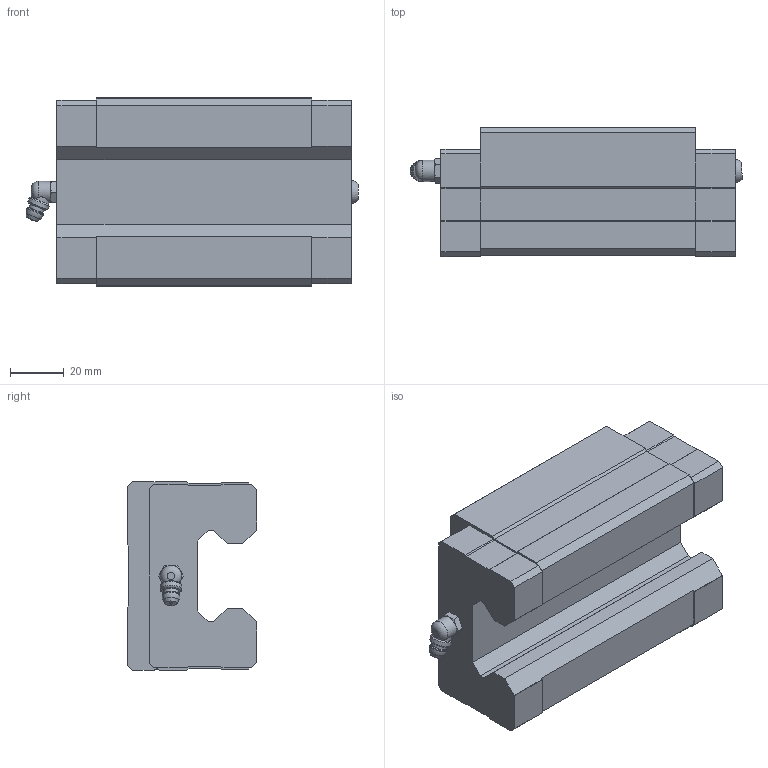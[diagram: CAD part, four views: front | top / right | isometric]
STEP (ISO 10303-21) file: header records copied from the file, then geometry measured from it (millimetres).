
FILE_DESCRIPTION(/* description */ ('STEP AP214'),/* implementation_level */ '2;1');
FILE_NAME(/* name */ 'LSH35BK-HN-N-N-M6',/* time_stamp */ '2025-03-14T18:40:33+01:00',/* author */ ('License CC BY-ND 4.0'),/* organization */ ('CADENAS'),/* preprocessor_version */ 'ST-DEVELOPER v19.3',/* originating_system */ 'PARTsolutions',/* authorisation */ ' ');
FILE_SCHEMA (('AUTOMOTIVE_DESIGN {1 0 10303 214 3 1 1}'));
Length unit declared in the file: millimetre
Products named in the file (1): LSH35BK-HN-N-N-M6
Bounding box: 122.96 x 48 x 70 mm (x, y, z)
Volume: 271462.1 mm3; surface area: 36654.4 mm2
Topology: 1 solids, 1 shells, 125 faces, 330 edges, 215 vertices
Faces by surface type: plane 100, cylinder 11, cone 8, torus 5, sphere 1
Full cylindrical faces by diameter (mm): 5.5 x1, 6.6 x1, 6.647 x4, 7.85 x1, 8 x1
Entity records: 3694 total; most frequent: CARTESIAN_POINT 693, ORIENTED_EDGE 604, DIRECTION 574, EDGE_CURVE 302, LINE 258, VECTOR 258, VERTEX_POINT 209, AXIS2_PLACEMENT_3D 158
